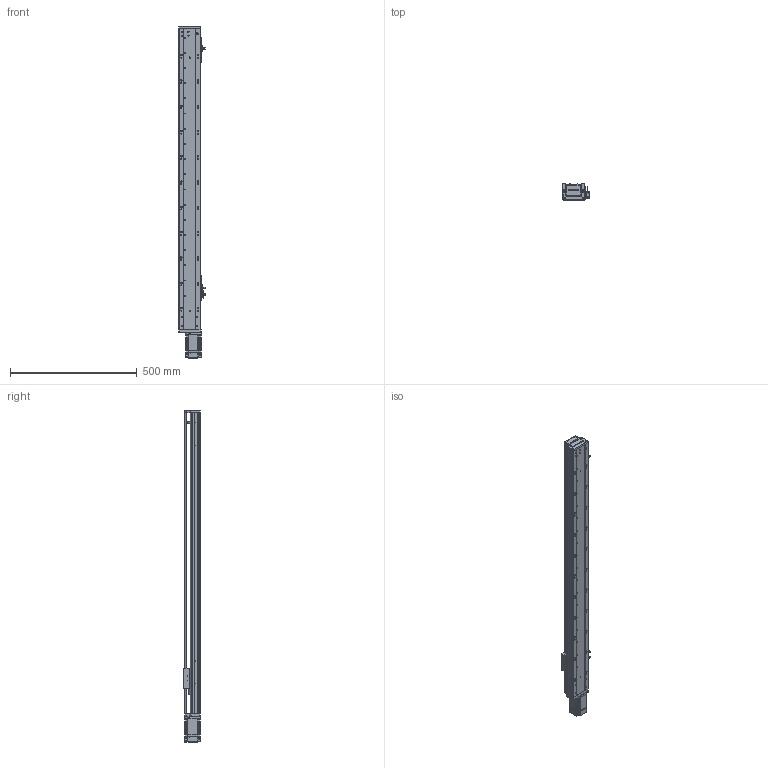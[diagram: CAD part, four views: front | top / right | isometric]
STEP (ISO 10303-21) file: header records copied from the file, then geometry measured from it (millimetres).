
FILE_DESCRIPTION (( 'STEP AP203' ), '1' );
FILE_NAME ('RY80-L1620-800-MK.SLDASM_950.step', '2021-02-20T03:10:19', ( '' ), ( '' ), 'SwSTEP 2.0', 'SolidWorks 2012', '' );
FILE_SCHEMA (( 'CONFIG_CONTROL_DESIGN' ));
Length unit declared in the file: millimetre
Products named in the file (13): RY80綴裔啣; RY80-L1620-800-MK.SLDASM_950; 滅袉蝶18-24; 672嫖萇羲壽假蚾釱; RY80俋离覜茼え; 覜茼ん672; RY80前盖板(200W电机); 侂狟200W萇儂; 滅袉蝶18-10; 1; RY80-800-MK倰第奻裔啣_950; RY80臏賑輸; RY80-800-MK倰第菁釱_950
Assembly tree (15 placements, depth 3):
  RY80-L1620-800-MK.SLDASM_950
    RY80-800-MK倰第菁釱_950
    RY80臏賑輸
    RY80-800-MK倰第奻裔啣_950
    RY80前盖板(200W电机)
    侂狟200W萇儂
      1
    滅袉蝶18-10
    672嫖萇羲壽假蚾釱  x2
    覜茼ん672  x3
    RY80俋离覜茼え
    滅袉蝶18-24
    RY80綴裔啣
Bounding box: 103.7 x 65 x 1312 mm (x, y, z)
Volume: 2067892.3 mm3; surface area: 815557.3 mm2
Topology: 14 solids, 14 shells, 2145 faces, 5988 edges, 3909 vertices
Faces by surface type: plane 1132, cylinder 848, cone 113, bspline 52
Entity records: 69603 total; most frequent: CARTESIAN_POINT 18662, ORIENTED_EDGE 10724, DIRECTION 9744, EDGE_CURVE 5362, VERTEX_POINT 3525, AXIS2_PLACEMENT_3D 3299, LINE 3146, VECTOR 3146
